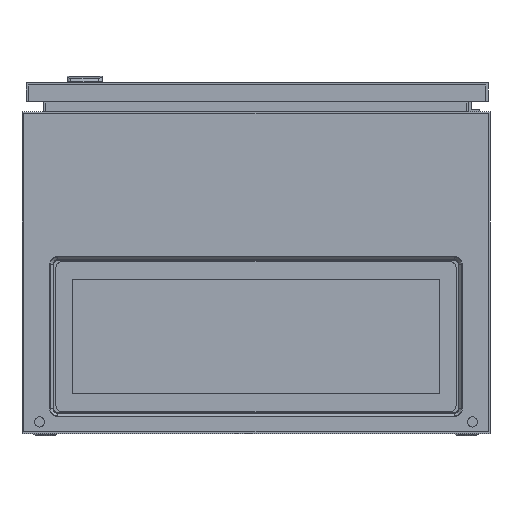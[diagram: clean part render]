
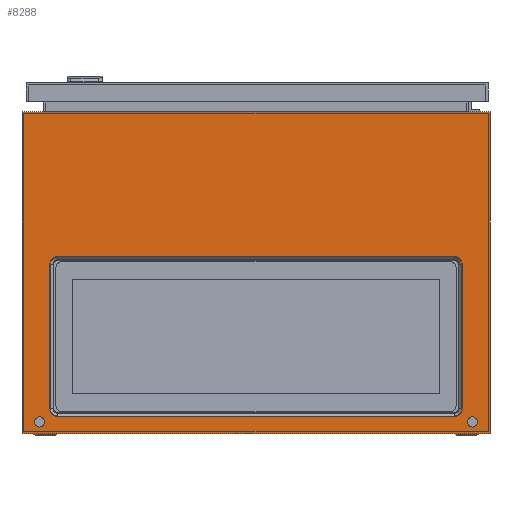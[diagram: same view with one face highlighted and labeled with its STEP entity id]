
A CAD part, front view. The second image highlights one B-rep face of the part: STEP entity #8288.
In plain terms, the highlighted planar face has unit normal (0, -1, 0).
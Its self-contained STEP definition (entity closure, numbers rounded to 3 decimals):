
#269=CIRCLE('',#9361,4.35);
#270=CIRCLE('',#9362,4.35);
#271=CIRCLE('',#9363,6.421);
#272=CIRCLE('',#9364,6.421);
#273=CIRCLE('',#9365,6.421);
#274=CIRCLE('',#9366,6.421);
#618=ORIENTED_EDGE('',*,*,#2930,.T.);
#619=ORIENTED_EDGE('',*,*,#2931,.T.);
#620=ORIENTED_EDGE('',*,*,#2932,.T.);
#621=ORIENTED_EDGE('',*,*,#2933,.F.);
#622=ORIENTED_EDGE('',*,*,#2934,.T.);
#623=ORIENTED_EDGE('',*,*,#2935,.T.);
#624=ORIENTED_EDGE('',*,*,#2936,.F.);
#625=ORIENTED_EDGE('',*,*,#2937,.T.);
#626=ORIENTED_EDGE('',*,*,#2938,.F.);
#627=ORIENTED_EDGE('',*,*,#2939,.F.);
#628=ORIENTED_EDGE('',*,*,#2918,.F.);
#629=ORIENTED_EDGE('',*,*,#2928,.F.);
#630=ORIENTED_EDGE('',*,*,#2921,.F.);
#631=ORIENTED_EDGE('',*,*,#2905,.F.);
#2905=EDGE_CURVE('',#4064,#4062,#4881,.T.);
#2918=EDGE_CURVE('',#4073,#4064,#4894,.T.);
#2921=EDGE_CURVE('',#4062,#4075,#4897,.T.);
#2928=EDGE_CURVE('',#4075,#4073,#4900,.T.);
#2930=EDGE_CURVE('',#4081,#4081,#269,.T.);
#2931=EDGE_CURVE('',#4082,#4082,#270,.T.);
#2932=EDGE_CURVE('',#4083,#4084,#271,.T.);
#2933=EDGE_CURVE('',#4085,#4084,#4902,.T.);
#2934=EDGE_CURVE('',#4085,#4086,#272,.T.);
#2935=EDGE_CURVE('',#4086,#4087,#4903,.T.);
#2936=EDGE_CURVE('',#4088,#4087,#273,.T.);
#2937=EDGE_CURVE('',#4088,#4089,#4904,.T.);
#2938=EDGE_CURVE('',#4090,#4089,#274,.T.);
#2939=EDGE_CURVE('',#4083,#4090,#4905,.T.);
#4062=VERTEX_POINT('',#12677);
#4064=VERTEX_POINT('',#12681);
#4073=VERTEX_POINT('',#12709);
#4075=VERTEX_POINT('',#12715);
#4081=VERTEX_POINT('',#12733);
#4082=VERTEX_POINT('',#12735);
#4083=VERTEX_POINT('',#12737);
#4084=VERTEX_POINT('',#12738);
#4085=VERTEX_POINT('',#12740);
#4086=VERTEX_POINT('',#12742);
#4087=VERTEX_POINT('',#12744);
#4088=VERTEX_POINT('',#12746);
#4089=VERTEX_POINT('',#12748);
#4090=VERTEX_POINT('',#12750);
#4881=LINE('',#12682,#5725);
#4894=LINE('',#12708,#5738);
#4897=LINE('',#12714,#5741);
#4900=LINE('',#12728,#5744);
#4902=LINE('',#12739,#5746);
#4903=LINE('',#12743,#5747);
#4904=LINE('',#12747,#5748);
#4905=LINE('',#12751,#5749);
#5725=VECTOR('',#10196,1000.);
#5738=VECTOR('',#10219,1000.);
#5741=VECTOR('',#10224,1000.);
#5744=VECTOR('',#10237,1000.);
#5746=VECTOR('',#10249,1000.);
#5747=VECTOR('',#10252,1000.);
#5748=VECTOR('',#10255,1000.);
#5749=VECTOR('',#10258,1000.);
#6564=EDGE_LOOP('',(#618));
#6565=EDGE_LOOP('',(#619));
#6566=EDGE_LOOP('',(#620,#621,#622,#623,#624,#625,#626,#627));
#6567=EDGE_LOOP('',(#628,#629,#630,#631));
#7252=FACE_BOUND('',#6564,.T.);
#7253=FACE_BOUND('',#6565,.T.);
#7254=FACE_BOUND('',#6566,.T.);
#7255=FACE_BOUND('',#6567,.T.);
#7935=PLANE('',#9360);
#8288=ADVANCED_FACE('',(#7252,#7253,#7254,#7255),#7935,.F.);
#9360=AXIS2_PLACEMENT_3D('',#12731,#10241,#10242);
#9361=AXIS2_PLACEMENT_3D('',#12732,#10243,#10244);
#9362=AXIS2_PLACEMENT_3D('',#12734,#10245,#10246);
#9363=AXIS2_PLACEMENT_3D('',#12736,#10247,#10248);
#9364=AXIS2_PLACEMENT_3D('',#12741,#10250,#10251);
#9365=AXIS2_PLACEMENT_3D('',#12745,#10253,#10254);
#9366=AXIS2_PLACEMENT_3D('',#12749,#10256,#10257);
#10196=DIRECTION('',(1.,0.,0.));
#10219=DIRECTION('',(0.,0.,1.));
#10224=DIRECTION('',(0.,0.,-1.));
#10237=DIRECTION('',(-1.,0.,0.));
#10241=DIRECTION('',(0.,1.,0.));
#10242=DIRECTION('',(0.,0.,1.));
#10243=DIRECTION('',(0.,1.,0.));
#10244=DIRECTION('',(1.,0.,0.));
#10245=DIRECTION('',(0.,1.,0.));
#10246=DIRECTION('',(1.,0.,0.));
#10247=DIRECTION('',(0.,1.,0.));
#10248=DIRECTION('',(0.,0.,1.));
#10249=DIRECTION('',(-1.,0.,0.));
#10250=DIRECTION('',(0.,1.,0.));
#10251=DIRECTION('',(0.,0.,1.));
#10252=DIRECTION('',(0.,0.,-1.));
#10253=DIRECTION('',(0.,-1.,0.));
#10254=DIRECTION('',(0.,0.,-1.));
#10255=DIRECTION('',(-1.,0.,0.));
#10256=DIRECTION('',(0.,-1.,0.));
#10257=DIRECTION('',(0.,0.,-1.));
#10258=DIRECTION('',(0.,0.,-1.));
#12677=CARTESIAN_POINT('',(200.,0.,125.2));
#12681=CARTESIAN_POINT('',(-200.,0.,125.2));
#12682=CARTESIAN_POINT('',(-200.,0.,125.2));
#12708=CARTESIAN_POINT('',(-200.,0.,-150.));
#12709=CARTESIAN_POINT('',(-200.,0.,-150.));
#12714=CARTESIAN_POINT('',(200.,0.,125.2));
#12715=CARTESIAN_POINT('',(200.,0.,-150.));
#12728=CARTESIAN_POINT('',(200.,0.,-150.));
#12731=CARTESIAN_POINT('',(0.,0.,0.));
#12732=CARTESIAN_POINT('',(185.,0.,-140.));
#12733=CARTESIAN_POINT('',(189.35,0.,-140.));
#12734=CARTESIAN_POINT('',(-185.,0.,-140.));
#12735=CARTESIAN_POINT('',(-180.65,0.,-140.));
#12736=CARTESIAN_POINT('',(-169.243,0.,-5.421));
#12737=CARTESIAN_POINT('',(-175.664,0.,-5.421));
#12738=CARTESIAN_POINT('',(-169.243,0.,1.));
#12739=CARTESIAN_POINT('',(169.243,0.,1.));
#12740=CARTESIAN_POINT('',(169.243,0.,1.));
#12741=CARTESIAN_POINT('',(169.243,0.,-5.421));
#12742=CARTESIAN_POINT('',(175.664,0.,-5.421));
#12743=CARTESIAN_POINT('',(175.664,0.,-5.421));
#12744=CARTESIAN_POINT('',(175.664,0.,-128.579));
#12745=CARTESIAN_POINT('',(169.243,0.,-128.579));
#12746=CARTESIAN_POINT('',(169.243,0.,-135.));
#12747=CARTESIAN_POINT('',(169.243,0.,-135.));
#12748=CARTESIAN_POINT('',(-169.243,0.,-135.));
#12749=CARTESIAN_POINT('',(-169.243,0.,-128.579));
#12750=CARTESIAN_POINT('',(-175.664,0.,-128.579));
#12751=CARTESIAN_POINT('',(-175.664,0.,-5.421));
